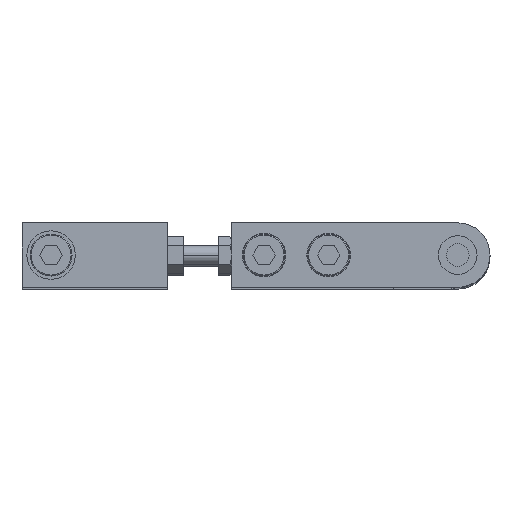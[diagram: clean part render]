
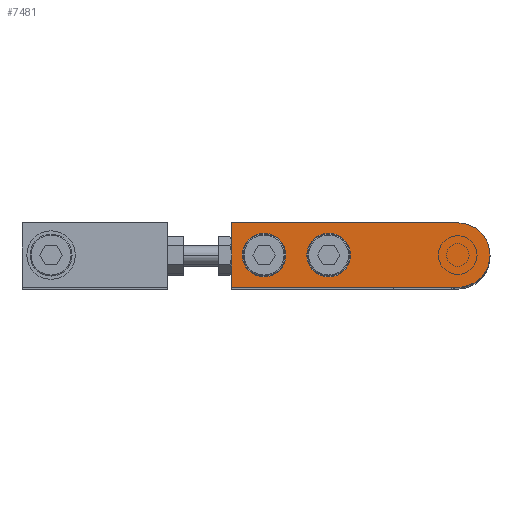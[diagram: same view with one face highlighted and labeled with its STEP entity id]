
A CAD part, top view. The second image highlights one B-rep face of the part: STEP entity #7481.
In plain terms, the highlighted planar face has unit normal (0, 0, 1) as drawn and (0, 0, -1) by its records, which use the part's own axes.
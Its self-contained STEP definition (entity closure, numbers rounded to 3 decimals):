
#77 = CIRCLE ( 'NONE', #340, 6.75 ) ;
#302 = ORIENTED_EDGE ( 'NONE', *, *, #7390, .F. ) ;
#340 = AXIS2_PLACEMENT_3D ( 'NONE', #1119, #3503, #7092 ) ;
#413 = CARTESIAN_POINT ( 'NONE',  ( 70., 10., -5. ) ) ;
#416 = EDGE_CURVE ( 'NONE', #5007, #4033, #4507, .T. ) ;
#556 = CARTESIAN_POINT ( 'NONE',  ( 70., 10., -5. ) ) ;
#598 = VERTEX_POINT ( 'NONE', #6169 ) ;
#623 = EDGE_CURVE ( 'NONE', #6727, #3507, #3780, .T. ) ;
#674 = CARTESIAN_POINT ( 'NONE',  ( 0., -10., -5. ) ) ;
#806 = FACE_OUTER_BOUND ( 'NONE', #2838, .T. ) ;
#945 = CARTESIAN_POINT ( 'NONE',  ( 0., 0., -5. ) ) ;
#1015 = DIRECTION ( 'NONE',  ( 1., 0., 0. ) ) ;
#1109 = CARTESIAN_POINT ( 'NONE',  ( 0., 10., -5. ) ) ;
#1119 = CARTESIAN_POINT ( 'NONE',  ( 40., 0., -5. ) ) ;
#1166 = CIRCLE ( 'NONE', #6752, 6.75 ) ;
#1213 = ORIENTED_EDGE ( 'NONE', *, *, #4134, .F. ) ;
#1590 = AXIS2_PLACEMENT_3D ( 'NONE', #6341, #6313, #2744 ) ;
#1647 = CARTESIAN_POINT ( 'NONE',  ( 0., 0., -5. ) ) ;
#1813 = DIRECTION ( 'NONE',  ( 1., 0., 0. ) ) ;
#1885 = EDGE_CURVE ( 'NONE', #4895, #598, #77, .T. ) ;
#1932 = ORIENTED_EDGE ( 'NONE', *, *, #7462, .F. ) ;
#2070 = CARTESIAN_POINT ( 'NONE',  ( 0., 0., -5. ) ) ;
#2072 = VECTOR ( 'NONE', #7342, 1000. ) ;
#2149 = AXIS2_PLACEMENT_3D ( 'NONE', #7261, #5598, #4319 ) ;
#2276 = EDGE_CURVE ( 'NONE', #4104, #5007, #5875, .T. ) ;
#2435 = ORIENTED_EDGE ( 'NONE', *, *, #416, .F. ) ;
#2544 = AXIS2_PLACEMENT_3D ( 'NONE', #945, #6824, #7370 ) ;
#2744 = DIRECTION ( 'NONE',  ( -1., 0., 0. ) ) ;
#2771 = DIRECTION ( 'NONE',  ( 0., 0., 1. ) ) ;
#2789 = ORIENTED_EDGE ( 'NONE', *, *, #5447, .F. ) ;
#2838 = EDGE_LOOP ( 'NONE', ( #1932, #5967, #2789, #2435, #7296 ) ) ;
#2961 = FACE_BOUND ( 'NONE', #2967, .T. ) ;
#2967 = EDGE_LOOP ( 'NONE', ( #6363, #302 ) ) ;
#3019 = VERTEX_POINT ( 'NONE', #3296 ) ;
#3191 = CARTESIAN_POINT ( 'NONE',  ( -10., 0., -5. ) ) ;
#3296 = CARTESIAN_POINT ( 'NONE',  ( 53.25, 0., -5. ) ) ;
#3380 = CARTESIAN_POINT ( 'NONE',  ( 0., -10., -5. ) ) ;
#3412 = CIRCLE ( 'NONE', #2544, 10. ) ;
#3503 = DIRECTION ( 'NONE',  ( 0., 0., -1. ) ) ;
#3507 = VERTEX_POINT ( 'NONE', #1109 ) ;
#3616 = EDGE_LOOP ( 'NONE', ( #4066, #1213 ) ) ;
#3618 = DIRECTION ( 'NONE',  ( -1., 0., 0. ) ) ;
#3780 = LINE ( 'NONE', #7422, #5969 ) ;
#3806 = CARTESIAN_POINT ( 'NONE',  ( 33.25, 0., -5. ) ) ;
#3929 = DIRECTION ( 'NONE',  ( 0., 0., 1. ) ) ;
#3972 = FACE_BOUND ( 'NONE', #3616, .T. ) ;
#4033 = VERTEX_POINT ( 'NONE', #4363 ) ;
#4066 = ORIENTED_EDGE ( 'NONE', *, *, #1885, .F. ) ;
#4104 = VERTEX_POINT ( 'NONE', #3191 ) ;
#4134 = EDGE_CURVE ( 'NONE', #598, #4895, #5975, .T. ) ;
#4319 = DIRECTION ( 'NONE',  ( -1., 0., 0. ) ) ;
#4344 = CARTESIAN_POINT ( 'NONE',  ( 66.75, 0., -5. ) ) ;
#4363 = CARTESIAN_POINT ( 'NONE',  ( 70., -10., -5. ) ) ;
#4384 = AXIS2_PLACEMENT_3D ( 'NONE', #2070, #2771, #4544 ) ;
#4414 = DIRECTION ( 'NONE',  ( -1., 0., 0. ) ) ;
#4507 = LINE ( 'NONE', #674, #5436 ) ;
#4544 = DIRECTION ( 'NONE',  ( 1., 0., 0. ) ) ;
#4829 = EDGE_CURVE ( 'NONE', #3019, #7002, #1166, .T. ) ;
#4895 = VERTEX_POINT ( 'NONE', #3806 ) ;
#5007 = VERTEX_POINT ( 'NONE', #3380 ) ;
#5039 = PLANE ( 'NONE',  #4384 ) ;
#5436 = VECTOR ( 'NONE', #1813, 1000. ) ;
#5447 = EDGE_CURVE ( 'NONE', #4033, #6727, #6504, .T. ) ;
#5595 = AXIS2_PLACEMENT_3D ( 'NONE', #1647, #3929, #1015 ) ;
#5598 = DIRECTION ( 'NONE',  ( 0., 0., -1. ) ) ;
#5875 = CIRCLE ( 'NONE', #5595, 10. ) ;
#5967 = ORIENTED_EDGE ( 'NONE', *, *, #623, .F. ) ;
#5969 = VECTOR ( 'NONE', #4414, 1000. ) ;
#5975 = CIRCLE ( 'NONE', #1590, 6.75 ) ;
#6000 = CARTESIAN_POINT ( 'NONE',  ( 60., 0., -5. ) ) ;
#6169 = CARTESIAN_POINT ( 'NONE',  ( 46.75, 0., -5. ) ) ;
#6313 = DIRECTION ( 'NONE',  ( 0., 0., -1. ) ) ;
#6341 = CARTESIAN_POINT ( 'NONE',  ( 40., 0., -5. ) ) ;
#6363 = ORIENTED_EDGE ( 'NONE', *, *, #4829, .F. ) ;
#6504 = LINE ( 'NONE', #413, #2072 ) ;
#6525 = CIRCLE ( 'NONE', #2149, 6.75 ) ;
#6727 = VERTEX_POINT ( 'NONE', #556 ) ;
#6752 = AXIS2_PLACEMENT_3D ( 'NONE', #6000, #7153, #3618 ) ;
#6824 = DIRECTION ( 'NONE',  ( 0., 0., 1. ) ) ;
#7002 = VERTEX_POINT ( 'NONE', #4344 ) ;
#7092 = DIRECTION ( 'NONE',  ( -1., 0., 0. ) ) ;
#7153 = DIRECTION ( 'NONE',  ( 0., 0., -1. ) ) ;
#7261 = CARTESIAN_POINT ( 'NONE',  ( 60., 0., -5. ) ) ;
#7296 = ORIENTED_EDGE ( 'NONE', *, *, #2276, .F. ) ;
#7342 = DIRECTION ( 'NONE',  ( 0., 1., 0. ) ) ;
#7370 = DIRECTION ( 'NONE',  ( 1., 0., 0. ) ) ;
#7390 = EDGE_CURVE ( 'NONE', #7002, #3019, #6525, .T. ) ;
#7422 = CARTESIAN_POINT ( 'NONE',  ( 0., 10., -5. ) ) ;
#7462 = EDGE_CURVE ( 'NONE', #3507, #4104, #3412, .T. ) ;
#7481 = ADVANCED_FACE ( 'NONE', ( #2961, #3972, #806 ), #5039, .F. ) ;
